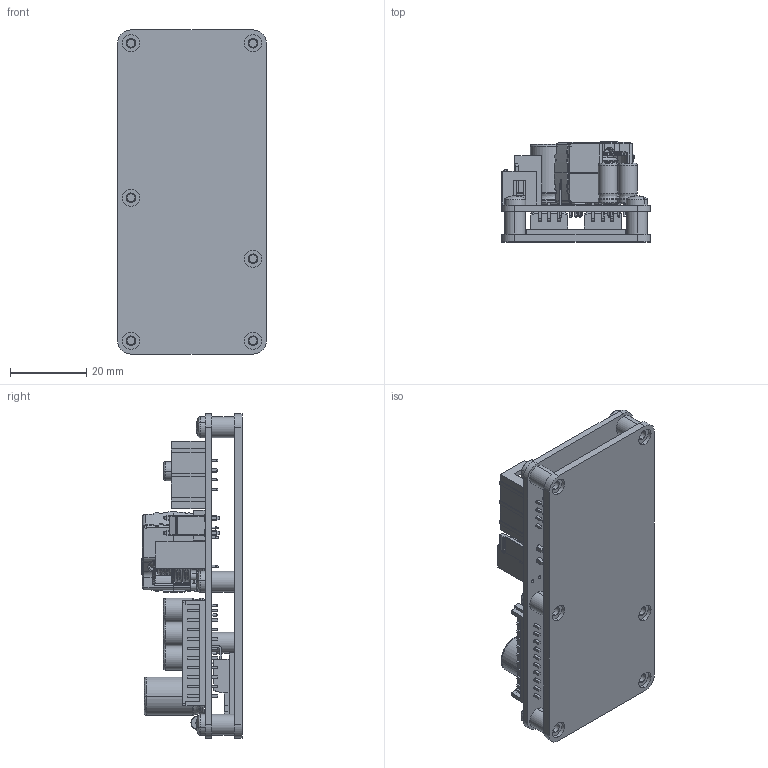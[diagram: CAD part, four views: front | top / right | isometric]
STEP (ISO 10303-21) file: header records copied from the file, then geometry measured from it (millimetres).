
FILE_DESCRIPTION (( 'STEP AP214' ), '1' );
FILE_NAME ('NC100HF 04xx.STEP', '2020-11-13T11:35:17', ( '' ), ( '' ), 'SwSTEP 2.0', 'SolidWorks 2017', '' );
FILE_SCHEMA (( 'AUTOMOTIVE_DESIGN' ));
Length unit declared in the file: millimetre
Products named in the file (6): spacer 6mm; gap pad 2; M3x0_5xL Phillips Panhead Screw_6mm; Hsink SAA8L4W0H2T1; NC100HF 04xx; NC100HF B06
Assembly tree (15 placements, depth 2):
  NC100HF 04xx
    Hsink SAA8L4W0H2T1
    spacer 6mm  x6
    M3x0_5xL Phillips Panhead Screw_6mm  x6
    gap pad 2
    NC100HF B06
Bounding box: 39 x 26.25 x 85 mm (x, y, z)
Volume: 8260.4 mm3; surface area: 27046.9 mm2
Topology: 14 solids, 99 shells, 1689 faces, 4828 edges, 3119 vertices
Faces by surface type: plane 665, cylinder 610, bspline 337, cone 65, torus 12
Entity records: 69132 total; most frequent: CARTESIAN_POINT 19991, DIRECTION 6998, ORIENTED_EDGE 6753, EDGE_CURVE 3973, VERTEX_POINT 2609, AXIS2_PLACEMENT_3D 2467, VECTOR 2064, LINE 2064
